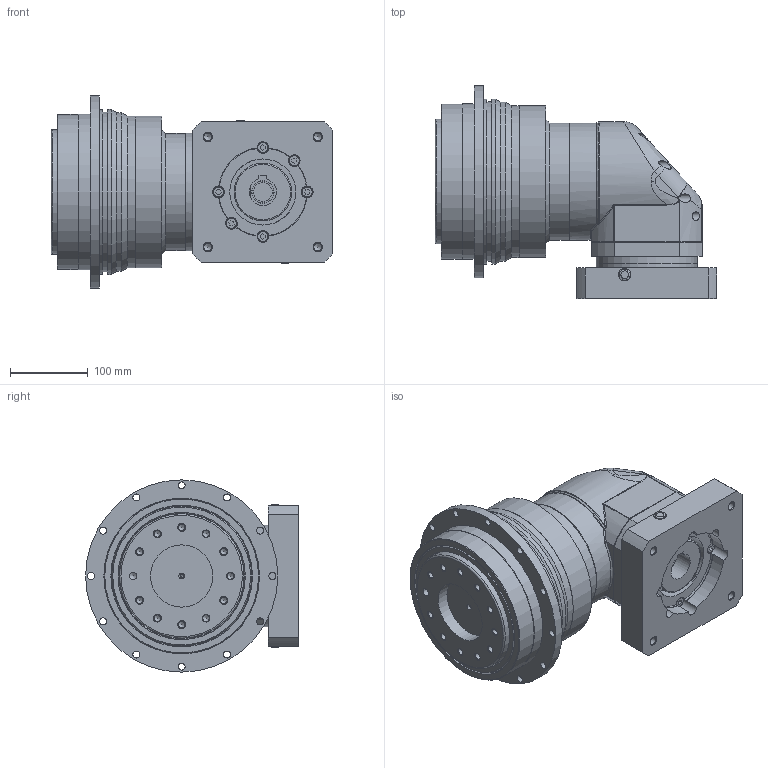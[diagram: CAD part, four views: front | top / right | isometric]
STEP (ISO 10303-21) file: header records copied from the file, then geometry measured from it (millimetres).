
FILE_DESCRIPTION (( 'STEP AP203' ), '1' );
FILE_NAME ('ADR200-L2-35-114.3-200-M12(入力带键槽).STEP', '2024-05-04T02:57:35', ( '' ), ( '' ), 'SwSTEP 2.0', 'SolidWorks 2018', '' );
FILE_SCHEMA (( 'CONFIG_CONTROL_DESIGN' ));
Length unit declared in the file: millimetre
Products named in the file (1): ADR200-L2-35-114.3-200-M12(入力带键槽)
Bounding box: 362 x 273.5 x 247 mm (x, y, z)
Volume: 7959623.1 mm3; surface area: 731625.3 mm2
Topology: 16 solids, 16 shells, 483 faces, 1141 edges, 715 vertices
Faces by surface type: plane 173, cylinder 152, bspline 73, cone 72, torus 13
Full cylindrical faces by diameter (mm): 4 x1, 6.5 x9, 6.8 x8, 8.5 x11, 9 x12, 10 x1, 10.2 x4, 11 x9, 13 x10, 15 x6, 16 x2, 24 x1, 28 x1, 68 x1, 74 x1, 80 x1, 85 x1, 87 x1, 95 x1, 100 x2, 106 x1, 108 x1, 113 x1, 120 x1, 130 x3, 135 x1, 150.5 x2, 160 x1, 165.714 x1, 180 x2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
Entity records: 16585 total; most frequent: CARTESIAN_POINT 6858, DIRECTION 1931, ORIENTED_EDGE 1776, EDGE_CURVE 888, AXIS2_PLACEMENT_3D 823, EDGE_LOOP 754, VERTEX_POINT 648, FACE_OUTER_BOUND 602
